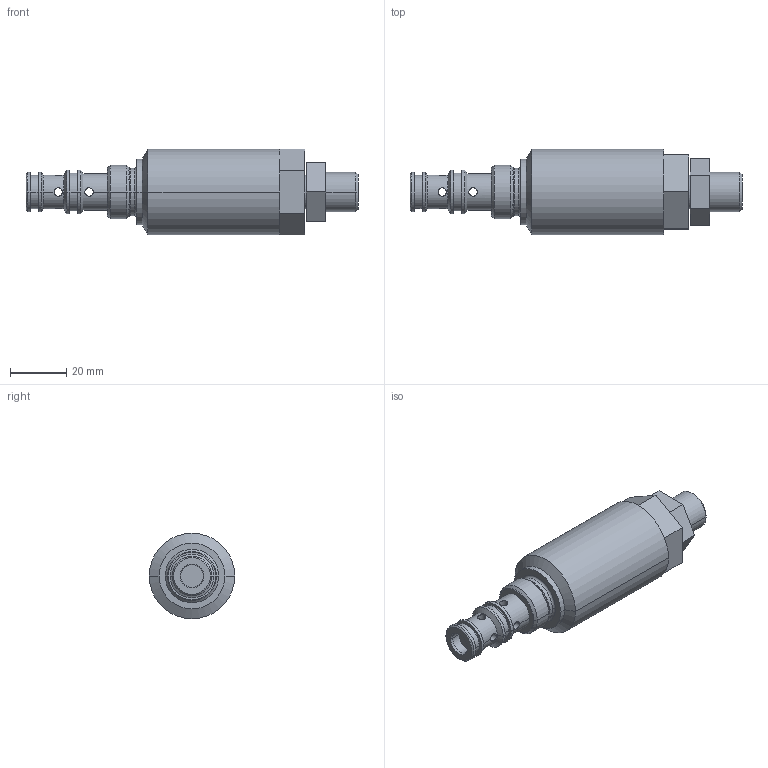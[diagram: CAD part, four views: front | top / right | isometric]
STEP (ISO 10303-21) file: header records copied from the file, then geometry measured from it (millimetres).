
FILE_DESCRIPTION((''),'2;1');
FILE_NAME('SP2A_A3','2011-03-14T',('tvatras'),(''),'PRO/ENGINEER BY PARAMETRIC TECHNOLOGY CORPORATION, 2010180','PRO/ENGINEER BY PARAMETRIC TECHNOLOGY CORPORATION, 2010180','');
FILE_SCHEMA(('CONFIG_CONTROL_DESIGN'));
Length unit declared in the file: millimetre
Products named in the file (1): SP2A_A3
Bounding box: 118.5 x 30.5 x 30.5 mm (x, y, z)
Volume: 52146.6 mm3; surface area: 11649.5 mm2
Topology: 1 solids, 2 shells, 124 faces, 273 edges, 153 vertices
Faces by surface type: cylinder 50, plane 42, cone 20, torus 12
Entity records: 3700 total; most frequent: CARTESIAN_POINT 906, DIRECTION 611, ORIENTED_EDGE 536, EDGE_CURVE 270, AXIS2_PLACEMENT_3D 238, VERTEX_POINT 151, EDGE_LOOP 139, VECTOR 135
